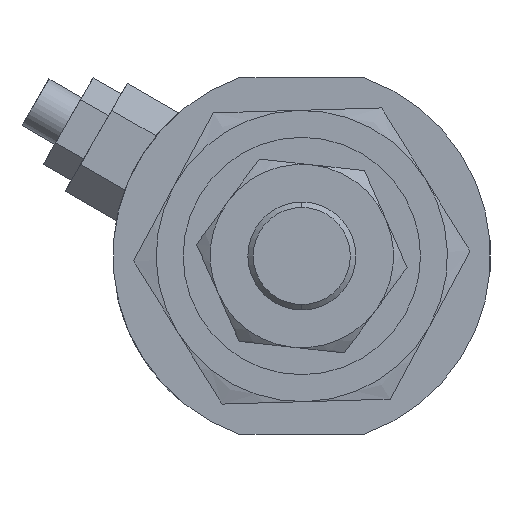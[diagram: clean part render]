
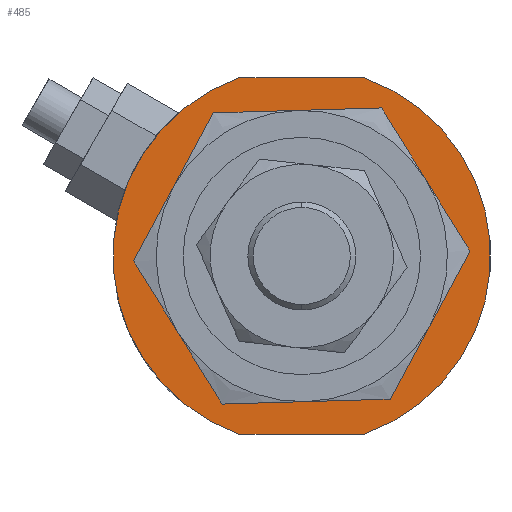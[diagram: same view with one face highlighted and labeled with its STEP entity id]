
A CAD part, left-side view. The second image highlights one B-rep face of the part: STEP entity #485.
In plain terms, the highlighted planar face has unit normal (-1, 0, 0).
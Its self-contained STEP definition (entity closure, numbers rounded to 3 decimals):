
#346 = VERTEX_POINT ( 'NONE', #4151 ) ;
#400 = LINE ( 'NONE', #3074, #3162 ) ;
#418 = DIRECTION ( 'NONE',  ( 0., 0., 1. ) ) ;
#437 = DIRECTION ( 'NONE',  ( 1., 0., 0. ) ) ;
#450 = FACE_OUTER_BOUND ( 'NONE', #4186, .T. ) ;
#464 = CIRCLE ( 'NONE', #2042, 17.5 ) ;
#485 = ADVANCED_FACE ( 'NONE', ( #2538, #450 ), #3337, .F. ) ;
#527 = ORIENTED_EDGE ( 'NONE', *, *, #1794, .F. ) ;
#664 = DIRECTION ( 'NONE',  ( 0., 0., -1. ) ) ;
#695 = AXIS2_PLACEMENT_3D ( 'NONE', #819, #1742, #3874 ) ;
#819 = CARTESIAN_POINT ( 'NONE',  ( 42., 0., 0. ) ) ;
#887 = DIRECTION ( 'NONE',  ( 0., 0., 1. ) ) ;
#918 = CARTESIAN_POINT ( 'NONE',  ( 42., 0., 11.5 ) ) ;
#1158 = EDGE_CURVE ( 'NONE', #4214, #2598, #2417, .T. ) ;
#1186 = LINE ( 'NONE', #2817, #1677 ) ;
#1279 = EDGE_CURVE ( 'NONE', #3997, #346, #3224, .T. ) ;
#1652 = VERTEX_POINT ( 'NONE', #3728 ) ;
#1677 = VECTOR ( 'NONE', #4471, 1000. ) ;
#1742 = DIRECTION ( 'NONE',  ( -1., 0., 0. ) ) ;
#1794 = EDGE_CURVE ( 'NONE', #2598, #4214, #2751, .T. ) ;
#1862 = CARTESIAN_POINT ( 'NONE',  ( 42., -5.831, -16.5 ) ) ;
#1877 = EDGE_CURVE ( 'NONE', #3217, #346, #1186, .T. ) ;
#1951 = AXIS2_PLACEMENT_3D ( 'NONE', #4570, #437, #664 ) ;
#2007 = DIRECTION ( 'NONE',  ( 0., 0., 1. ) ) ;
#2042 = AXIS2_PLACEMENT_3D ( 'NONE', #4396, #2953, #887 ) ;
#2351 = CARTESIAN_POINT ( 'NONE',  ( 42., 0., 0. ) ) ;
#2417 = CIRCLE ( 'NONE', #695, 11.5 ) ;
#2425 = ORIENTED_EDGE ( 'NONE', *, *, #1158, .F. ) ;
#2431 = DIRECTION ( 'NONE',  ( -1., 0., 0. ) ) ;
#2478 = AXIS2_PLACEMENT_3D ( 'NONE', #3156, #3297, #2007 ) ;
#2512 = EDGE_CURVE ( 'NONE', #3997, #1652, #400, .T. ) ;
#2538 = FACE_BOUND ( 'NONE', #2949, .T. ) ;
#2598 = VERTEX_POINT ( 'NONE', #3763 ) ;
#2751 = CIRCLE ( 'NONE', #3027, 11.5 ) ;
#2817 = CARTESIAN_POINT ( 'NONE',  ( 42., 15., 16.5 ) ) ;
#2865 = ORIENTED_EDGE ( 'NONE', *, *, #1877, .F. ) ;
#2949 = EDGE_LOOP ( 'NONE', ( #2425, #527 ) ) ;
#2953 = DIRECTION ( 'NONE',  ( -1., 0., 0. ) ) ;
#3027 = AXIS2_PLACEMENT_3D ( 'NONE', #2351, #2431, #418 ) ;
#3074 = CARTESIAN_POINT ( 'NONE',  ( 42., 15., -16.5 ) ) ;
#3156 = CARTESIAN_POINT ( 'NONE',  ( 42., 0., 0. ) ) ;
#3162 = VECTOR ( 'NONE', #3677, 1000. ) ;
#3200 = EDGE_CURVE ( 'NONE', #3217, #1652, #464, .T. ) ;
#3217 = VERTEX_POINT ( 'NONE', #3478 ) ;
#3224 = CIRCLE ( 'NONE', #2478, 17.5 ) ;
#3297 = DIRECTION ( 'NONE',  ( -1., 0., 0. ) ) ;
#3337 = PLANE ( 'NONE',  #1951 ) ;
#3478 = CARTESIAN_POINT ( 'NONE',  ( 42., 5.831, 16.5 ) ) ;
#3538 = ORIENTED_EDGE ( 'NONE', *, *, #3200, .T. ) ;
#3677 = DIRECTION ( 'NONE',  ( 0., 1., 0. ) ) ;
#3728 = CARTESIAN_POINT ( 'NONE',  ( 42., 5.831, -16.5 ) ) ;
#3760 = ORIENTED_EDGE ( 'NONE', *, *, #2512, .F. ) ;
#3763 = CARTESIAN_POINT ( 'NONE',  ( 42., 0., -11.5 ) ) ;
#3874 = DIRECTION ( 'NONE',  ( 0., 0., 1. ) ) ;
#3997 = VERTEX_POINT ( 'NONE', #1862 ) ;
#4082 = ORIENTED_EDGE ( 'NONE', *, *, #1279, .T. ) ;
#4151 = CARTESIAN_POINT ( 'NONE',  ( 42., -5.831, 16.5 ) ) ;
#4186 = EDGE_LOOP ( 'NONE', ( #3538, #3760, #4082, #2865 ) ) ;
#4214 = VERTEX_POINT ( 'NONE', #918 ) ;
#4396 = CARTESIAN_POINT ( 'NONE',  ( 42., 0., 0. ) ) ;
#4471 = DIRECTION ( 'NONE',  ( 0., -1., 0. ) ) ;
#4570 = CARTESIAN_POINT ( 'NONE',  ( 42., 0., -17.5 ) ) ;
